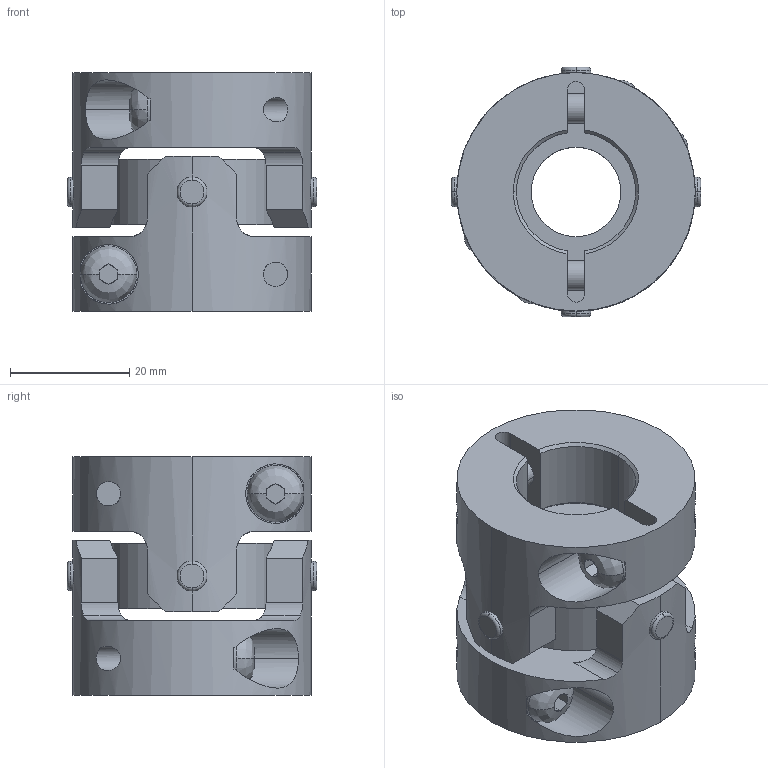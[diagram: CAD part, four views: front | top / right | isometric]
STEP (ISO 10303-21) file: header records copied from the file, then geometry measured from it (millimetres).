
FILE_DESCRIPTION((''),'2;1');
FILE_NAME('UA-40C-20×20.stp','2013-05-22T08:53:07',(''),(''),'AutoCAD STEP 2000i','AutoCAD 2000i',', , ');
FILE_SCHEMA(('CONFIG_CONTROL_DESIGN'));
Length unit declared in the file: millimetre
Products named in the file (8): UA-40C-18×18; 忣兜1; UA-4002-D18-1; BTN-M5; UA-4002-D18; UA-4002-D08-1; UA-4002-D08; UA40-SEN
Assembly tree (10 placements, depth 3):
  UA-40C-18×18
    忣兜1
    UA-4002-D18-1
      BTN-M5
    UA-4002-D18
      BTN-M5
    UA-4002-D08-1
      BTN-M5
    UA-4002-D08
      BTN-M5
    UA40-SEN
Bounding box: 41.81 x 41.81 x 40 mm (x, y, z)
Volume: 30357.9 mm3; surface area: 14593.4 mm2
Topology: 1 solids, 1 shells, 254 faces, 662 edges, 416 vertices
Faces by surface type: plane 126, cylinder 96, cone 16, bspline 8, torus 8
Entity records: 9783 total; most frequent: CARTESIAN_POINT 3355, DIRECTION 1328, ORIENTED_EDGE 1324, EDGE_CURVE 662, AXIS2_PLACEMENT_3D 513, VERTEX_POINT 416, VECTOR 302, LINE 302
